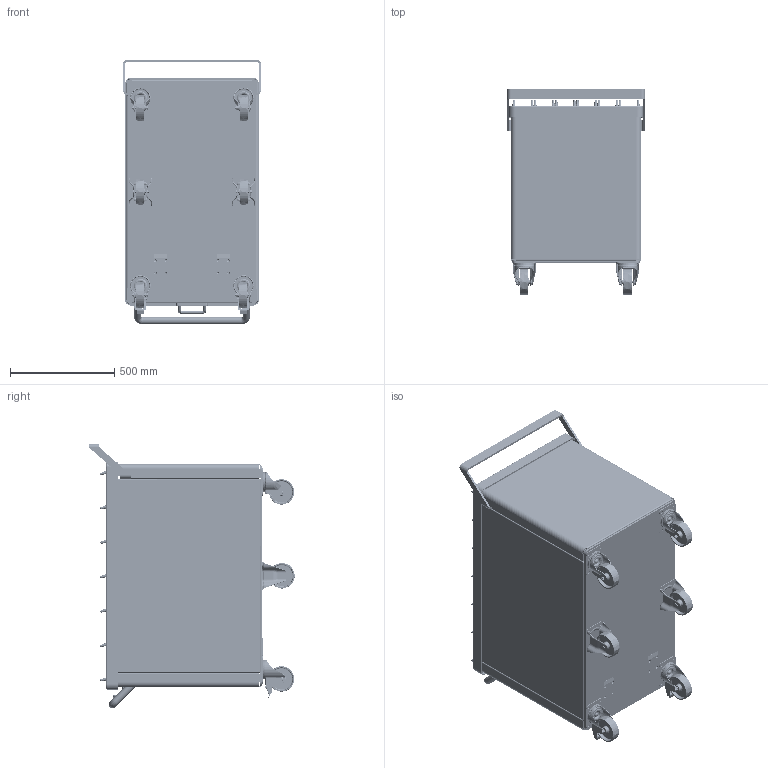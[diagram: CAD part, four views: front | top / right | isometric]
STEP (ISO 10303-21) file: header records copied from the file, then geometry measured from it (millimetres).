
FILE_DESCRIPTION (( 'STEP AP203' ), '1' );
FILE_NAME ('66042.STEP', '2018-05-15T05:55:34', ( '' ), ( '' ), 'SwSTEP 2.0', 'SolidWorks 2015', '' );
FILE_SCHEMA (( 'CONFIG_CONTROL_DESIGN' ));
Products named in the file (1): 66042
Bounding box: 660 x 987.78 x 1268.59 mm (x, y, z)
Volume: 34691859.6 mm3; surface area: 11850733.6 mm2
Topology: 159 solids, 159 shells, 6401 faces, 14692 edges, 8854 vertices
Faces by surface type: plane 2509, cylinder 1910, cone 1100, bspline 462, torus 418, sphere 2
Entity records: 220641 total; most frequent: CARTESIAN_POINT 76914, DIRECTION 30874, ORIENTED_EDGE 29020, EDGE_CURVE 14510, AXIS2_PLACEMENT_3D 12192, VERTEX_POINT 8854, EDGE_LOOP 7356, VECTOR 6490
